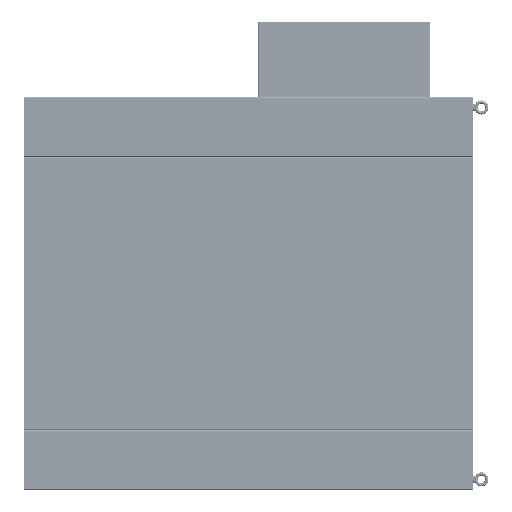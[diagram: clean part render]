
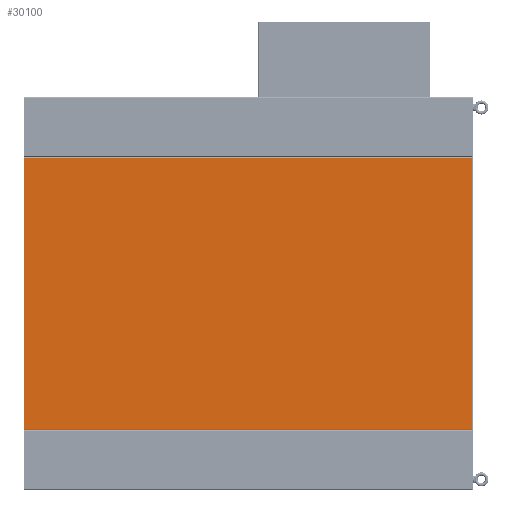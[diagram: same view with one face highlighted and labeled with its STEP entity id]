
A CAD part, left-side view. The second image highlights one B-rep face of the part: STEP entity #30100.
In plain terms, the highlighted planar face has unit normal (-1, 0, 0) as drawn and (0, 0, -1) by its records, which use the part's own axes.
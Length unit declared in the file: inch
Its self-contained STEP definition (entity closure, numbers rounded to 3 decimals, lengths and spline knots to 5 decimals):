
#27429=DIRECTION('',(0.,-1.,0.));
#27430=VECTOR('',#27429,89.75);
#27431=CARTESIAN_POINT('',(-27.125,0.,-0.125));
#27432=LINE('',#27431,#27430);
#27444=DIRECTION('',(1.,0.,0.));
#27445=VECTOR('',#27444,54.25);
#27446=CARTESIAN_POINT('',(-27.125,-89.75,-0.125));
#27447=LINE('',#27446,#27445);
#27451=DIRECTION('',(-1.,0.,0.));
#27452=VECTOR('',#27451,54.25);
#27453=CARTESIAN_POINT('',(27.125,0.,-0.125));
#27454=LINE('',#27453,#27452);
#27487=DIRECTION('',(0.,1.,0.));
#27488=VECTOR('',#27487,89.75);
#27489=CARTESIAN_POINT('',(27.125,-89.75,-0.125));
#27490=LINE('',#27489,#27488);
#28958=CARTESIAN_POINT('',(27.125,0.,-0.125));
#28959=VERTEX_POINT('',#28958);
#28960=CARTESIAN_POINT('',(27.125,-89.75,-0.125));
#28961=VERTEX_POINT('',#28960);
#29230=CARTESIAN_POINT('',(-27.125,-89.75,-0.125));
#29231=VERTEX_POINT('',#29230);
#29232=CARTESIAN_POINT('',(-27.125,0.,-0.125));
#29233=VERTEX_POINT('',#29232);
#30086=CARTESIAN_POINT('',(0.,0.,-0.125));
#30087=DIRECTION('',(0.,0.,1.));
#30088=DIRECTION('',(1.,0.,0.));
#30089=AXIS2_PLACEMENT_3D('',#30086,#30087,#30088);
#30090=PLANE('',#30089);
#30091=ORIENTED_EDGE('',*,*,#30079,.T.);
#30093=ORIENTED_EDGE('',*,*,#30092,.T.);
#30095=ORIENTED_EDGE('',*,*,#30094,.T.);
#30097=ORIENTED_EDGE('',*,*,#30096,.T.);
#30098=EDGE_LOOP('',(#30091,#30093,#30095,#30097));
#30099=FACE_OUTER_BOUND('',#30098,.F.);
#30079=EDGE_CURVE('',#29233,#29231,#27432,.T.);
#30092=EDGE_CURVE('',#29231,#28961,#27447,.T.);
#30094=EDGE_CURVE('',#28961,#28959,#27490,.T.);
#30096=EDGE_CURVE('',#28959,#29233,#27454,.T.);
#30100=ADVANCED_FACE('',(#30099),#30090,.F.);
